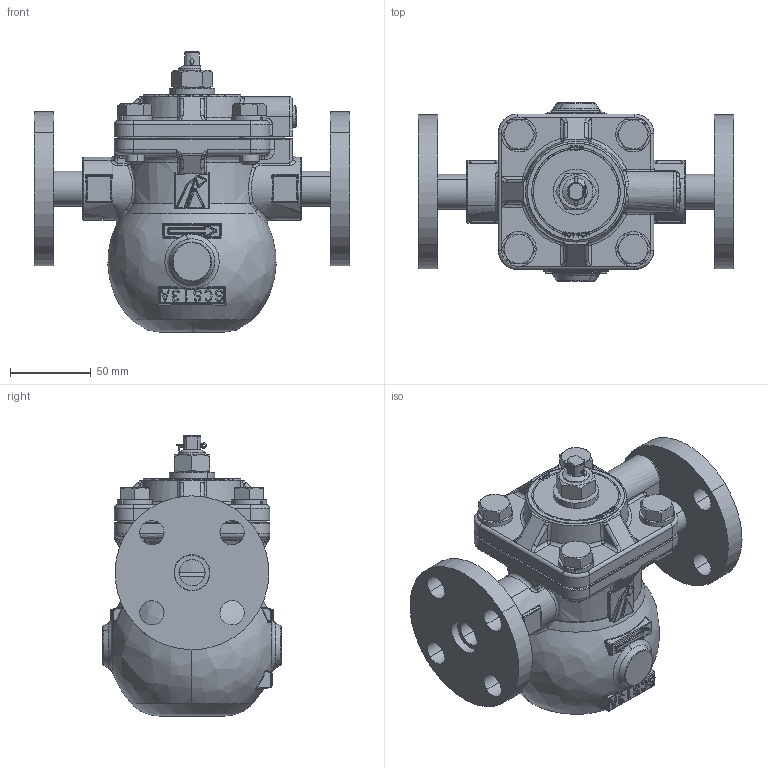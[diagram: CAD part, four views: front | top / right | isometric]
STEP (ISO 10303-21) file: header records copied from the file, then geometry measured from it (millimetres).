
FILE_DESCRIPTION((''),'2;1');
FILE_NAME('','2020-10-13T10:10:24',(''),(''),'','CADfix','');
FILE_SCHEMA(('AUTOMOTIVE_DESIGN { 1 0 10303 214 1 1 1 1 }'));
Length unit declared in the file: millimetre
Products named in the file (16): 本体 15A SW 埋め; ふた 埋め; 　コック 埋め; SOP 10K 15A; CP_SUS＿'_SUS304TP 15AxSch40x34.7_5126; CP_'_JIS B 1180 呼び径六角ボルト'_17166; CP_'_JIS B 1180 呼び径六角ボルト'_17168; ふたGK（耳2つ）; SSLW12; テーパプラグMSWTS2; 3D　TSF-10　割りピン; 3D　TSF-10　銘板文字; 3D　TSF-10　六角ナット; 3D　TSF-10　銘板; 3D　TSF-10　カラー; TSF-10SF JIS10K 15A_38
Assembly tree (22 placements, depth 2):
  TSF-10SF JIS10K 15A_38
    本体 15A SW 埋め
    ふた 埋め
    　コック 埋め
    SOP 10K 15A  x2
    CP_SUS＿'_SUS304TP 15AxSch40x34.7_5126  x2
    CP_'_JIS B 1180 呼び径六角ボルト'_17166  x3
    CP_'_JIS B 1180 呼び径六角ボルト'_17168
    ふたGK（耳2つ）
    SSLW12  x4
    テーパプラグMSWTS2
    3D　TSF-10　割りピン
    3D　TSF-10　銘板文字
    3D　TSF-10　六角ナット
    3D　TSF-10　銘板
    3D　TSF-10　カラー
Bounding box: 195 x 110 x 173 mm (x, y, z)
Volume: 1196114.1 mm3; surface area: 166917 mm2
Topology: 22 solids, 22 shells, 1629 faces, 4590 edges, 2984 vertices
Faces by surface type: bspline 1629
Entity records: 76810 total; most frequent: CARTESIAN_POINT 46486, ORIENTED_EDGE 8486, STYLED_ITEM 4977, EDGE_CURVE 4243, VERTEX_POINT 2734, B_SPLINE_CURVE_WITH_KNOTS 1999, QUASI_UNIFORM_CURVE 1911, EDGE_LOOP 1615
